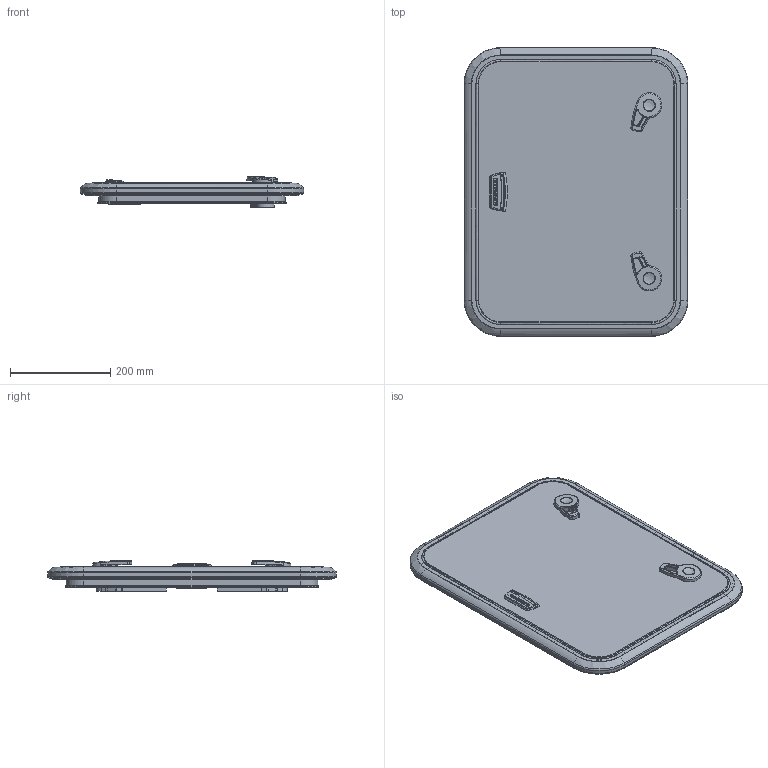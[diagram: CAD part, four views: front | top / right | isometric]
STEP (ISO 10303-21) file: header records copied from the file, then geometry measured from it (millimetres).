
FILE_DESCRIPTION((''),'2;1');
FILE_NAME('LEWMAR-HATCH-LOWPRO-50_ASM','2008-02-05T',('skennedy'),(''),'PRO/ENGINEER BY PARAMETRIC TECHNOLOGY CORPORATION, 2007030','PRO/ENGINEER BY PARAMETRIC TECHNOLOGY CORPORATION, 2007030','');
FILE_SCHEMA(('CONFIG_CONTROL_DESIGN'));
Length unit declared in the file: millimetre
Products named in the file (6): FRAME_50; 3595053X; HINGE_LEVER_LP; HANDLE_LP_LHS; HANDLE_LP_RHS; LEWMAR-HATCH-LOWPRO-50_ASM
Assembly tree (5 placements, depth 2):
  LEWMAR-HATCH-LOWPRO-50_ASM
    FRAME_50
    3595053X
    HINGE_LEVER_LP
    HANDLE_LP_LHS
    HANDLE_LP_RHS
Bounding box: 447 x 577 x 61.17 mm (x, y, z)
Volume: 3716216.8 mm3; surface area: 863808 mm2
Topology: 5 solids, 5 shells, 891 faces, 2228 edges, 1364 vertices
Faces by surface type: bspline 346, plane 297, cylinder 135, cone 41, torus 35, extrusion 23, sphere 14
Entity records: 38350 total; most frequent: CARTESIAN_POINT 19351, ORIENTED_EDGE 4432, DIRECTION 3011, EDGE_CURVE 2216, VERTEX_POINT 1364, AXIS2_PLACEMENT_3D 1053, EDGE_LOOP 950, VECTOR 905
